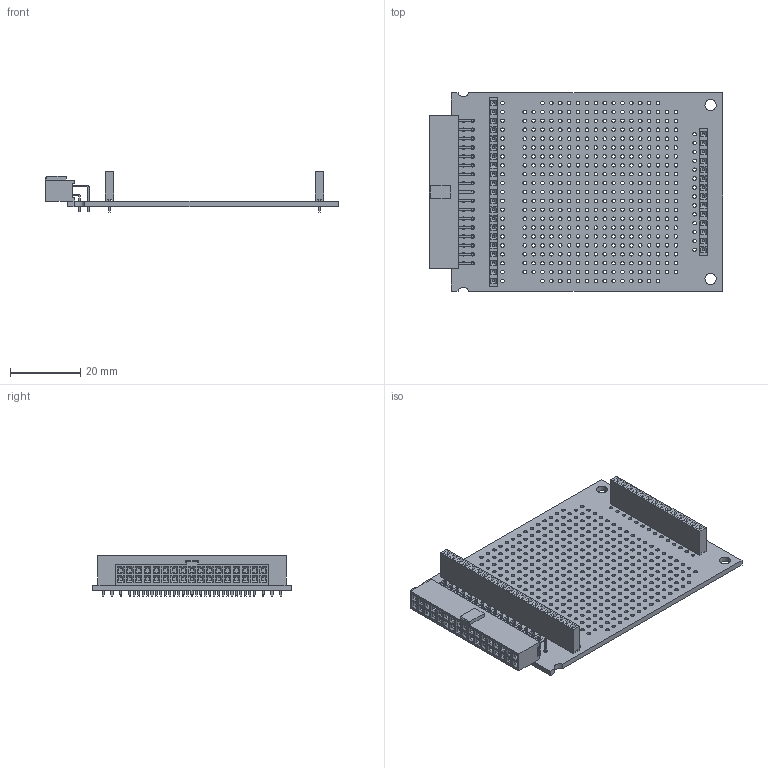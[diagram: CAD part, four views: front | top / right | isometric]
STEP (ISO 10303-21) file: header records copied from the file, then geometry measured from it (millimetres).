
FILE_DESCRIPTION((''),'2;1');
FILE_NAME('CU_MXP_PROTOBOARD','2013-08-13T',('jbuhisan'),(''),'PRO/ENGINEER BY PARAMETRIC TECHNOLOGY CORPORATION, 2011490','PRO/ENGINEER BY PARAMETRIC TECHNOLOGY CORPORATION, 2011490','');
FILE_SCHEMA(('CONFIG_CONTROL_DESIGN'));
Products named in the file (1): CU_MXP_PROTOBOARD
Bounding box: 83.72 x 56.64 x 11.6 mm (x, y, z)
Volume: 9964.1 mm3; surface area: 16255 mm2
Topology: 1 solids, 1 shells, 2233 faces, 5999 edges, 3906 vertices
Faces by surface type: plane 1211, cylinder 1022
Entity records: 71949 total; most frequent: DIRECTION 12509, CARTESIAN_POINT 12138, ORIENTED_EDGE 11998, EDGE_CURVE 5999, AXIS2_PLACEMENT_3D 4277, VECTOR 3955, LINE 3955, VERTEX_POINT 3906
